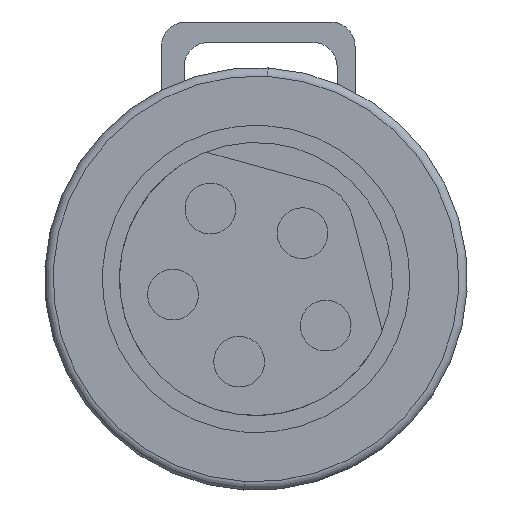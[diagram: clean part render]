
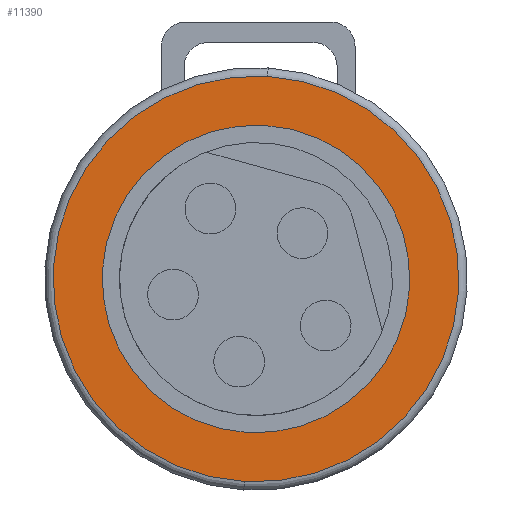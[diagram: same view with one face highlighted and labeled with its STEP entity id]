
A CAD part, front view. The second image highlights one B-rep face of the part: STEP entity #11390.
In plain terms, the highlighted planar face has unit normal (0, -1, 0) as drawn and (-1, 0, 0) by its records, which use the part's own axes.
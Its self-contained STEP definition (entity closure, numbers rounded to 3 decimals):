
#1837 = FACE_OUTER_BOUND ( 'NONE', #8398, .T. ) ;
#2158 = VERTEX_POINT ( 'NONE', #14438 ) ;
#3100 = VERTEX_POINT ( 'NONE', #4745 ) ;
#3274 = CIRCLE ( 'NONE', #21569, 4.2 ) ;
#3711 = CARTESIAN_POINT ( 'NONE',  ( 1.209, 0., 0. ) ) ;
#4256 = CARTESIAN_POINT ( 'NONE',  ( 1.209, 4.2, 0. ) ) ;
#4349 = VERTEX_POINT ( 'NONE', #4882 ) ;
#4399 = FACE_BOUND ( 'NONE', #14710, .T. ) ;
#4745 = CARTESIAN_POINT ( 'NONE',  ( 1.209, 0., 3.183 ) ) ;
#4882 = CARTESIAN_POINT ( 'NONE',  ( 1.209, 0., 4.2 ) ) ;
#4989 = DIRECTION ( 'NONE',  ( 0., 0., -1. ) ) ;
#6230 = ORIENTED_EDGE ( 'NONE', *, *, #17093, .T. ) ;
#6682 = DIRECTION ( 'NONE',  ( 1., 0., 0. ) ) ;
#7518 = EDGE_CURVE ( 'NONE', #23971, #3100, #15376, .T. ) ;
#8398 = EDGE_LOOP ( 'NONE', ( #15252, #6230 ) ) ;
#8552 = EDGE_CURVE ( 'NONE', #3100, #23971, #25192, .T. ) ;
#10149 = DIRECTION ( 'NONE',  ( 0., 0., 1. ) ) ;
#10709 = DIRECTION ( 'NONE',  ( 0., 0., 1. ) ) ;
#10831 = AXIS2_PLACEMENT_3D ( 'NONE', #16663, #14226, #27403 ) ;
#11230 = ORIENTED_EDGE ( 'NONE', *, *, #7518, .T. ) ;
#11390 = ADVANCED_FACE ( 'NONE', ( #4399, #1837 ), #17126, .F. ) ;
#13706 = DIRECTION ( 'NONE',  ( 1., 0., 0. ) ) ;
#14226 = DIRECTION ( 'NONE',  ( 1., 0., 0. ) ) ;
#14433 = CARTESIAN_POINT ( 'NONE',  ( 1.209, 0., 0. ) ) ;
#14438 = CARTESIAN_POINT ( 'NONE',  ( 1.209, 0., -4.2 ) ) ;
#14710 = EDGE_LOOP ( 'NONE', ( #11230, #25789 ) ) ;
#14725 = AXIS2_PLACEMENT_3D ( 'NONE', #14433, #20751, #10149 ) ;
#15252 = ORIENTED_EDGE ( 'NONE', *, *, #22062, .T. ) ;
#15376 = CIRCLE ( 'NONE', #10831, 3.183 ) ;
#16663 = CARTESIAN_POINT ( 'NONE',  ( 1.209, 0., 0. ) ) ;
#16713 = AXIS2_PLACEMENT_3D ( 'NONE', #4256, #6682, #10709 ) ;
#17093 = EDGE_CURVE ( 'NONE', #2158, #4349, #3274, .T. ) ;
#17126 = PLANE ( 'NONE',  #16713 ) ;
#18578 = CARTESIAN_POINT ( 'NONE',  ( 1.209, 0., 0. ) ) ;
#18743 = CARTESIAN_POINT ( 'NONE',  ( 1.209, 0., -3.183 ) ) ;
#20750 = DIRECTION ( 'NONE',  ( -1., 0., 0. ) ) ;
#20751 = DIRECTION ( 'NONE',  ( -1., 0., 0. ) ) ;
#21569 = AXIS2_PLACEMENT_3D ( 'NONE', #3711, #20750, #22899 ) ;
#22062 = EDGE_CURVE ( 'NONE', #4349, #2158, #23427, .T. ) ;
#22899 = DIRECTION ( 'NONE',  ( 0., 0., 1. ) ) ;
#23427 = CIRCLE ( 'NONE', #14725, 4.2 ) ;
#23971 = VERTEX_POINT ( 'NONE', #18743 ) ;
#25192 = CIRCLE ( 'NONE', #27000, 3.183 ) ;
#25789 = ORIENTED_EDGE ( 'NONE', *, *, #8552, .T. ) ;
#27000 = AXIS2_PLACEMENT_3D ( 'NONE', #18578, #13706, #4989 ) ;
#27403 = DIRECTION ( 'NONE',  ( 0., 0., -1. ) ) ;
